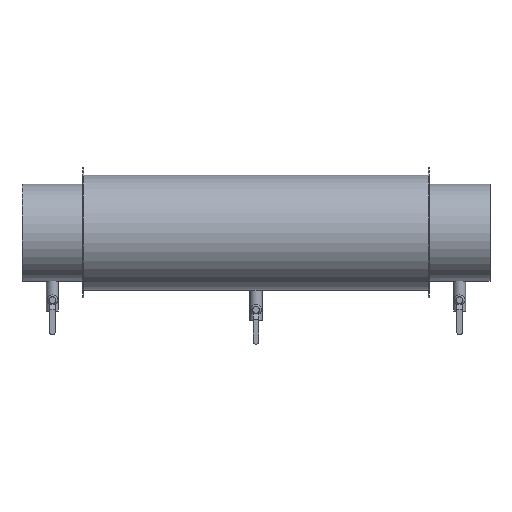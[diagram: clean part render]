
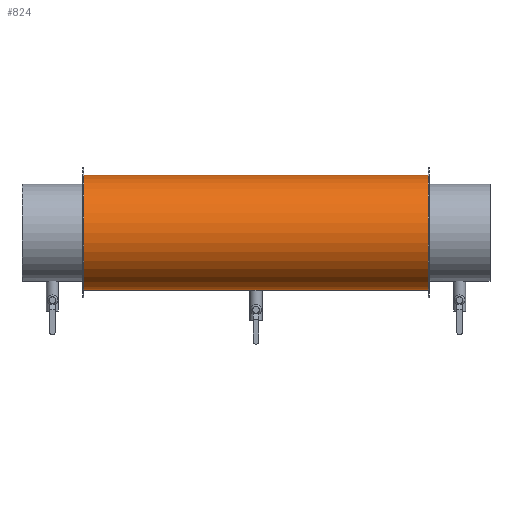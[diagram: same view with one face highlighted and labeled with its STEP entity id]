
A CAD part, top view. The second image highlights one B-rep face of the part: STEP entity #824.
In plain terms, the highlighted cylindrical face has radius 150 mm (diameter 300 mm), a partial arc.
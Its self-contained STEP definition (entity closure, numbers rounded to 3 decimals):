
#136=CARTESIAN_POINT('',(-451.,0.,0.));
#137=DIRECTION('',(1.,0.,0.));
#138=DIRECTION('',(0.,1.,0.));
#139=AXIS2_PLACEMENT_3D('',#136,#137,#138);
#141=DIRECTION('',(-1.,0.,0.));
#142=VECTOR('',#141,902.);
#143=CARTESIAN_POINT('',(451.,150.,0.));
#144=LINE('',#143,#142);
#145=DIRECTION('',(-1.,0.,0.));
#146=VECTOR('',#145,902.);
#147=CARTESIAN_POINT('',(451.,-150.,0.));
#148=LINE('',#147,#146);
#154=CARTESIAN_POINT('',(451.,0.,0.));
#155=DIRECTION('',(1.,0.,0.));
#156=DIRECTION('',(0.,1.,0.));
#157=AXIS2_PLACEMENT_3D('',#154,#155,#156);
#661=CARTESIAN_POINT('',(451.,150.,0.));
#662=CARTESIAN_POINT('',(-451.,150.,0.));
#663=VERTEX_POINT('',#661);
#664=VERTEX_POINT('',#662);
#673=CARTESIAN_POINT('',(451.,-150.,0.));
#674=CARTESIAN_POINT('',(-451.,-150.,0.));
#675=VERTEX_POINT('',#673);
#676=VERTEX_POINT('',#674);
#812=CARTESIAN_POINT('',(-498.3,0.,0.));
#813=DIRECTION('',(1.,0.,0.));
#814=DIRECTION('',(0.,-1.,0.));
#815=AXIS2_PLACEMENT_3D('',#812,#813,#814);
#816=CYLINDRICAL_SURFACE('',#815,150.);
#817=ORIENTED_EDGE('',*,*,#802,.F.);
#819=ORIENTED_EDGE('',*,*,#818,.T.);
#820=ORIENTED_EDGE('',*,*,#805,.T.);
#821=ORIENTED_EDGE('',*,*,#792,.F.);
#822=EDGE_LOOP('',(#817,#819,#820,#821));
#823=FACE_OUTER_BOUND('',#822,.F.);
#140=CIRCLE('',#139,150.);
#158=CIRCLE('',#157,150.);
#792=EDGE_CURVE('',#664,#676,#140,.T.);
#802=EDGE_CURVE('',#663,#664,#144,.T.);
#805=EDGE_CURVE('',#675,#676,#148,.T.);
#818=EDGE_CURVE('',#663,#675,#158,.T.);
#824=ADVANCED_FACE('',(#823),#816,.T.);
